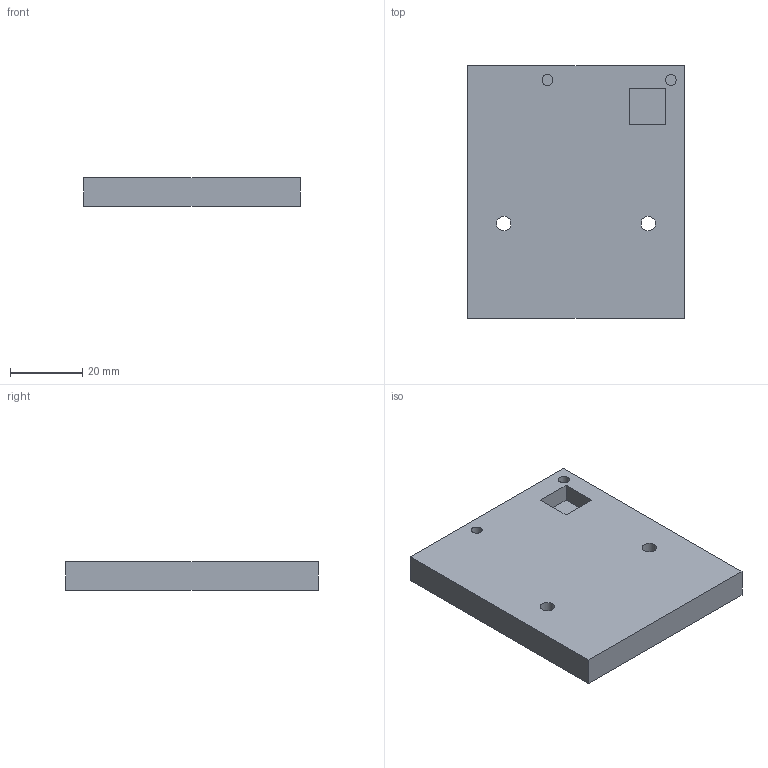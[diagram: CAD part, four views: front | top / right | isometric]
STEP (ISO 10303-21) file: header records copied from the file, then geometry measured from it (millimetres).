
FILE_DESCRIPTION(/* description */ (''),/* implementation_level */ '2;1');
FILE_NAME(/* name */ '',/* time_stamp */ '2025-10-06T16:27:54+08:00',/* author */ (''),/* organization */ (''),/* preprocessor_version */ 'ST-DEVELOPER v20.1',/* originating_system */ 'Autodesk Translation Framework v14.17.0.0',/* authorisation */ '');
FILE_SCHEMA (('AUTOMOTIVE_DESIGN { 1 0 10303 214 3 1 1 }'));
Length unit declared in the file: millimetre
Products named in the file (1): 底座
Bounding box: 60 x 70 x 8 mm (x, y, z)
Volume: 32734 mm3; surface area: 10962.7 mm2
Topology: 1 solids, 1 shells, 21 faces, 42 edges, 28 vertices
Faces by surface type: plane 15, cylinder 6
Full cylindrical faces by diameter (mm): 3 x2, 4 x2, 6 x2
Entity records: 596 total; most frequent: DIRECTION 98, CARTESIAN_POINT 92, ORIENTED_EDGE 84, EDGE_CURVE 42, AXIS2_PLACEMENT_3D 34, EDGE_LOOP 30, LINE 30, VECTOR 30
